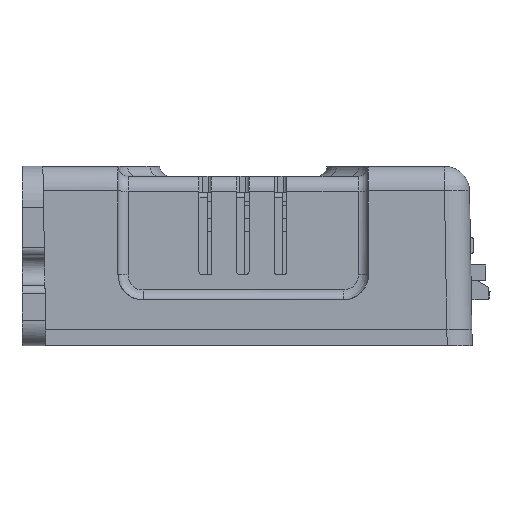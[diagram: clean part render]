
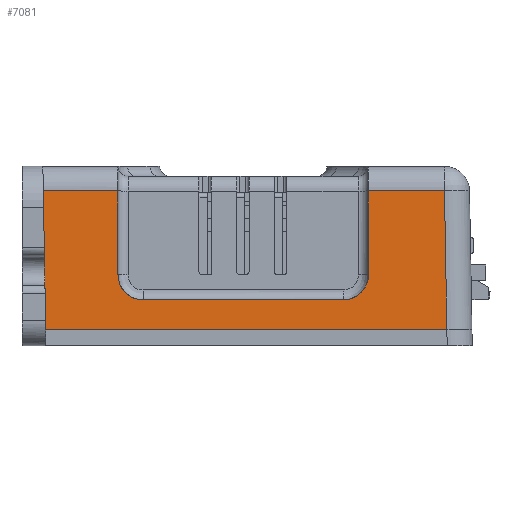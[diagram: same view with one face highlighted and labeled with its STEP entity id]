
A CAD part, left-side view. The second image highlights one B-rep face of the part: STEP entity #7081.
In plain terms, the highlighted planar face has unit normal (-1, 0, 0.018).
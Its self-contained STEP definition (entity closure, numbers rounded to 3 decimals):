
#7081=ADVANCED_FACE('EZI-SERVO_MINI.1\\CSAE_UPPER',(#17905),#17906,.F.);
#17905=FACE_OUTER_BOUND('',#33032,.T.);
#17906=PLANE('',#33033);
#33032=EDGE_LOOP('',(#53458,#53459,#53460,#53461,#53462,#53463,#53464,#53465,#53466,#53467));
#33033=AXIS2_PLACEMENT_3D('',#53468,#53469,#53470);
#53458=ORIENTED_EDGE('',*,*,#76374,.T.);
#53459=ORIENTED_EDGE('',*,*,#76375,.T.);
#53460=ORIENTED_EDGE('',*,*,#76376,.T.);
#53461=ORIENTED_EDGE('',*,*,#76377,.T.);
#53462=ORIENTED_EDGE('',*,*,#76378,.T.);
#53463=ORIENTED_EDGE('',*,*,#76379,.F.);
#53464=ORIENTED_EDGE('',*,*,#76380,.T.);
#53465=ORIENTED_EDGE('',*,*,#75019,.F.);
#53466=ORIENTED_EDGE('',*,*,#76381,.F.);
#53467=ORIENTED_EDGE('',*,*,#76382,.F.);
#53468=CARTESIAN_POINT('',(-206.213,-25.7,-0.5));
#53469=DIRECTION('',(1.,0.0,-0.017));
#53470=DIRECTION('',(0.0,-1.0,0.0));
#75019=EDGE_CURVE('LINE',#83266,#83268,#83269,.T.);
#76374=EDGE_CURVE('LINE',#85477,#83090,#85478,.T.);
#76375=EDGE_CURVE('',#83090,#85479,#85480,.T.);
#76376=EDGE_CURVE('LINE',#85479,#85481,#85482,.T.);
#76377=EDGE_CURVE('',#85481,#85483,#85484,.T.);
#76378=EDGE_CURVE('LINE',#85483,#85485,#85486,.T.);
#76379=EDGE_CURVE('LINE',#85487,#85485,#85488,.T.);
#76380=EDGE_CURVE('',#85487,#83268,#85489,.T.);
#76381=EDGE_CURVE('',#82039,#83266,#85490,.T.);
#76382=EDGE_CURVE('LINE',#85477,#82039,#85491,.T.);
#82039=VERTEX_POINT('',#93050);
#83090=VERTEX_POINT('',#94581);
#83266=VERTEX_POINT('',#94847);
#83268=VERTEX_POINT('',#94863);
#83269=LINE('',#94864,#94865);
#85477=VERTEX_POINT('',#98502);
#85478=LINE('',#98503,#98504);
#85479=VERTEX_POINT('',#98505);
#85480=ELLIPSE('',#98506,3.,3.0);
#85481=VERTEX_POINT('',#98507);
#85482=LINE('',#98508,#98509);
#85483=VERTEX_POINT('',#98510);
#85484=ELLIPSE('',#98511,3.,3.0);
#85485=VERTEX_POINT('',#98512);
#85486=LINE('',#98513,#98514);
#85487=VERTEX_POINT('',#98515);
#85488=LINE('',#98516,#98517);
#85489=LINE('',#98518,#98519);
#85490=LINE('',#98520,#98521);
#85491=LINE('',#98522,#98523);
#93050=CARTESIAN_POINT('',(-205.924,-48.112,16.052));
#94581=CARTESIAN_POINT('',(-206.1,-39.0,6.));
#94847=CARTESIAN_POINT('',(-206.213,-48.4,-0.5));
#94863=CARTESIAN_POINT('',(-206.213,-0.34,-0.5));
#94864=CARTESIAN_POINT('',(-206.213,-24.37,-0.5));
#94865=VECTOR('',#110872,1.0);
#98502=CARTESIAN_POINT('',(-205.924,-39.0,16.052));
#98503=CARTESIAN_POINT('',(-206.043,-39.0,9.25));
#98504=VECTOR('',#112403,1.0);
#98505=CARTESIAN_POINT('',(-206.152,-36.0,3.0));
#98506=AXIS2_PLACEMENT_3D('',#112404,#112405,#112406);
#98507=CARTESIAN_POINT('',(-206.152,-12.0,3.0));
#98508=CARTESIAN_POINT('',(-206.152,-25.7,3.0));
#98509=VECTOR('',#112407,1.0);
#98510=CARTESIAN_POINT('',(-206.1,-9.0,6.0));
#98511=AXIS2_PLACEMENT_3D('',#112408,#112409,#112410);
#98512=CARTESIAN_POINT('',(-205.924,-9.0,16.052));
#98513=CARTESIAN_POINT('',(-206.043,-9.0,9.25));
#98514=VECTOR('',#112411,1.0);
#98515=CARTESIAN_POINT('',(-205.924,-0.051,16.052));
#98516=CARTESIAN_POINT('',(-205.924,-25.7,16.052));
#98517=VECTOR('',#112412,1.0);
#98518=CARTESIAN_POINT('',(-206.069,-0.196,7.776));
#98519=VECTOR('',#112413,1.0);
#98520=CARTESIAN_POINT('',(-206.069,-48.256,7.776));
#98521=VECTOR('',#112414,1.0);
#98522=CARTESIAN_POINT('',(-205.924,-25.7,16.052));
#98523=VECTOR('',#112415,1.0);
#110872=DIRECTION('',(0.0,1.0,0.0));
#112403=DIRECTION('',(-0.017,0.0,-1.));
#112404=CARTESIAN_POINT('',(-206.1,-36.0,6.0));
#112405=DIRECTION('',(1.,0.0,-0.017));
#112406=DIRECTION('',(0.017,0.0,1.));
#112407=DIRECTION('',(0.0,1.0,0.0));
#112408=CARTESIAN_POINT('',(-206.1,-12.0,6.0));
#112409=DIRECTION('',(1.,0.0,-0.017));
#112410=DIRECTION('',(0.017,0.0,1.));
#112411=DIRECTION('',(0.017,0.0,1.));
#112412=DIRECTION('',(0.0,-1.0,0.0));
#112413=DIRECTION('',(-0.017,-0.017,-1.));
#112414=DIRECTION('',(-0.017,-0.017,-1.));
#112415=DIRECTION('',(0.0,-1.0,0.0));
